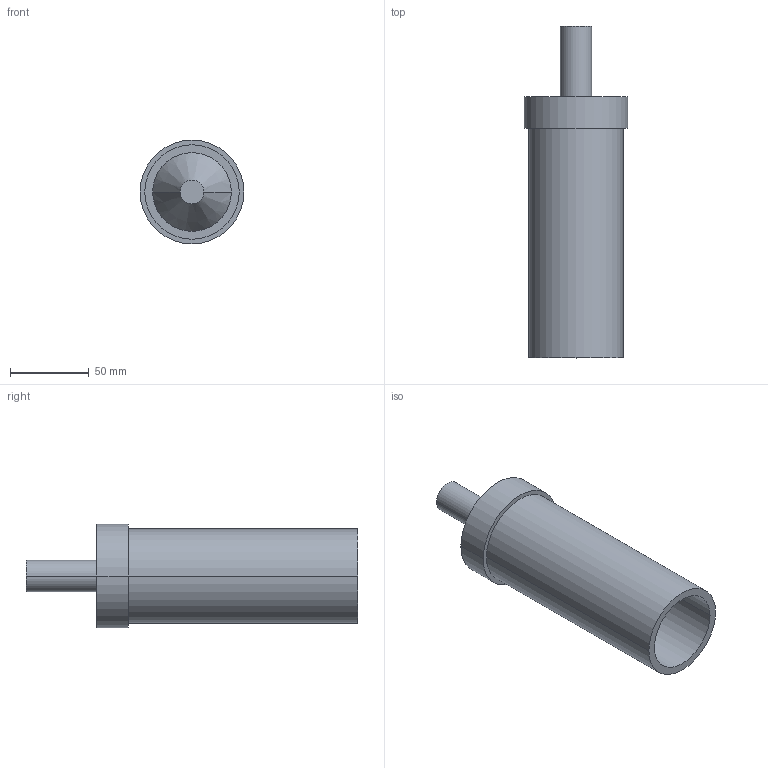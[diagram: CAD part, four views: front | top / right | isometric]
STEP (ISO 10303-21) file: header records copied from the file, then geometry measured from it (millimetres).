
FILE_DESCRIPTION (( 'STEP AP203' ), '1' );
FILE_NAME ('30330.STEP', '2013-05-06T13:42:06', ( '' ), ( '' ), 'SwSTEP 2.0', 'SolidWorks 2011', '' );
FILE_SCHEMA (( 'CONFIG_CONTROL_DESIGN' ));
Length unit declared in the file: millimetre
Products named in the file (1): 30330
Bounding box: 66 x 211 x 66 mm (x, y, z)
Volume: 234169.1 mm3; surface area: 65855.2 mm2
Topology: 1 solids, 1 shells, 15 faces, 28 edges, 18 vertices
Faces by surface type: cylinder 8, plane 5, cone 2
Entity records: 461 total; most frequent: DIRECTION 78, CARTESIAN_POINT 62, ORIENTED_EDGE 56, AXIS2_PLACEMENT_3D 34, EDGE_CURVE 28, VERTEX_POINT 18, EDGE_LOOP 18, CIRCLE 18
